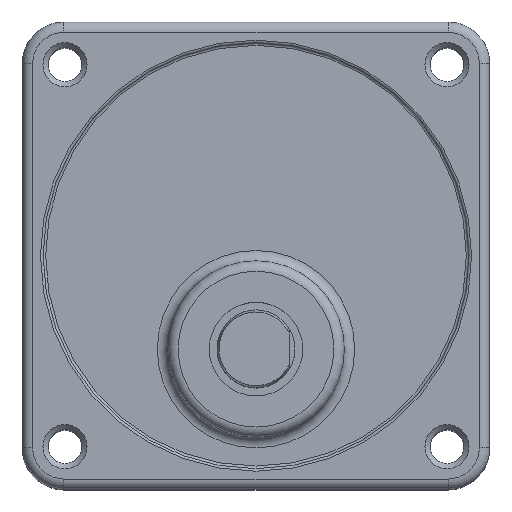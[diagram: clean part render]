
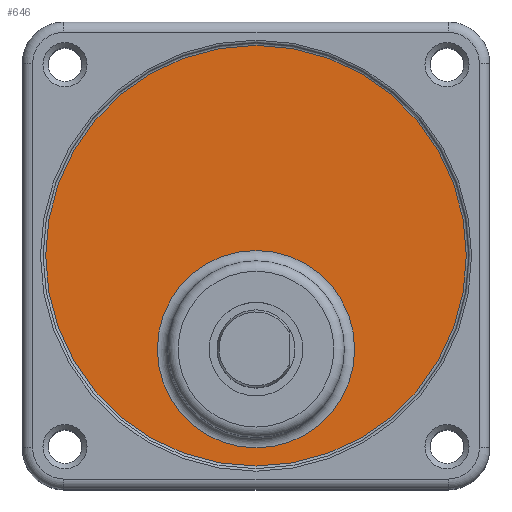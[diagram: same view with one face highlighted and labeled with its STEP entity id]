
A CAD part, top view. The second image highlights one B-rep face of the part: STEP entity #646.
In plain terms, the highlighted planar face has unit normal (0, 0, 1).
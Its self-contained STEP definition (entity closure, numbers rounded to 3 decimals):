
#595=CARTESIAN_POINT('',(64.,27.,64.5));
#596=VERTEX_POINT('',#595);
#597=CARTESIAN_POINT('',(45.,27.0,64.5));
#598=DIRECTION('',(0.0,0.0,1.0));
#599=DIRECTION('',(-1.0,0.0,0.0));
#600=AXIS2_PLACEMENT_3D('',#597,#598,#599);
#601=CIRCLE('',#600,19.0);
#602=EDGE_CURVE('',#596,#596,#601,.T.);
#627=CARTESIAN_POINT('',(45.,45.0,64.5));
#628=DIRECTION('',(0.0,0.0,-1.0));
#629=DIRECTION('',(-1.0,0.0,0.0));
#630=AXIS2_PLACEMENT_3D('',#627,#628,#629);
#631=PLANE('',#630);
#632=CARTESIAN_POINT('',(85.5,45.,64.5));
#633=VERTEX_POINT('',#632);
#634=CARTESIAN_POINT('',(45.,45.0,64.5));
#635=DIRECTION('',(0.0,0.0,-1.0));
#636=DIRECTION('',(-1.0,0.0,0.0));
#637=AXIS2_PLACEMENT_3D('',#634,#635,#636);
#638=CIRCLE('',#637,40.5);
#639=EDGE_CURVE('',#633,#633,#638,.T.);
#640=ORIENTED_EDGE('',*,*,#639,.F.);
#641=EDGE_LOOP('',(#640));
#642=FACE_OUTER_BOUND('',#641,.T.);
#643=ORIENTED_EDGE('',*,*,#602,.F.);
#644=EDGE_LOOP('',(#643));
#645=FACE_BOUND('',#644,.T.);
#646=ADVANCED_FACE('',(#642,#645),#631,.F.);
